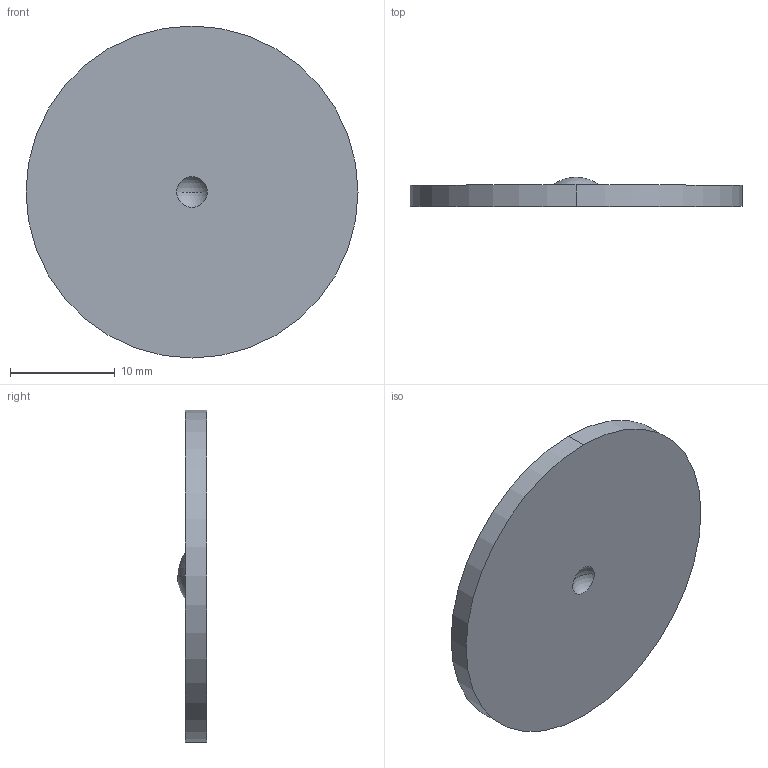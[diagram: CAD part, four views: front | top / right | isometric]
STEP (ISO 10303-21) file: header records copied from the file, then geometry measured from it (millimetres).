
FILE_DESCRIPTION (( 'STEP AP203' ), '1' );
FILE_NAME ('1969898-10.STEP', '2024-11-13T15:17:19', ( '' ), ( '' ), 'SwSTEP 2.0', 'SolidWorks 2024', '' );
FILE_SCHEMA (( 'CONFIG_CONTROL_DESIGN' ));
Length unit declared in the file: inch
Products named in the file (1): 1969898-10
Bounding box: 31.75 x 2.79 x 31.75 mm (x, y, z)
Volume: 1612.5 mm3; surface area: 1789.8 mm2
Topology: 1 solids, 1 shells, 8 faces, 14 edges, 10 vertices
Faces by surface type: sphere 4, cylinder 2, plane 2
Entity records: 285 total; most frequent: DIRECTION 44, CARTESIAN_POINT 33, ORIENTED_EDGE 28, AXIS2_PLACEMENT_3D 21, EDGE_CURVE 14, CIRCLE 12, EDGE_LOOP 10, VERTEX_POINT 10
